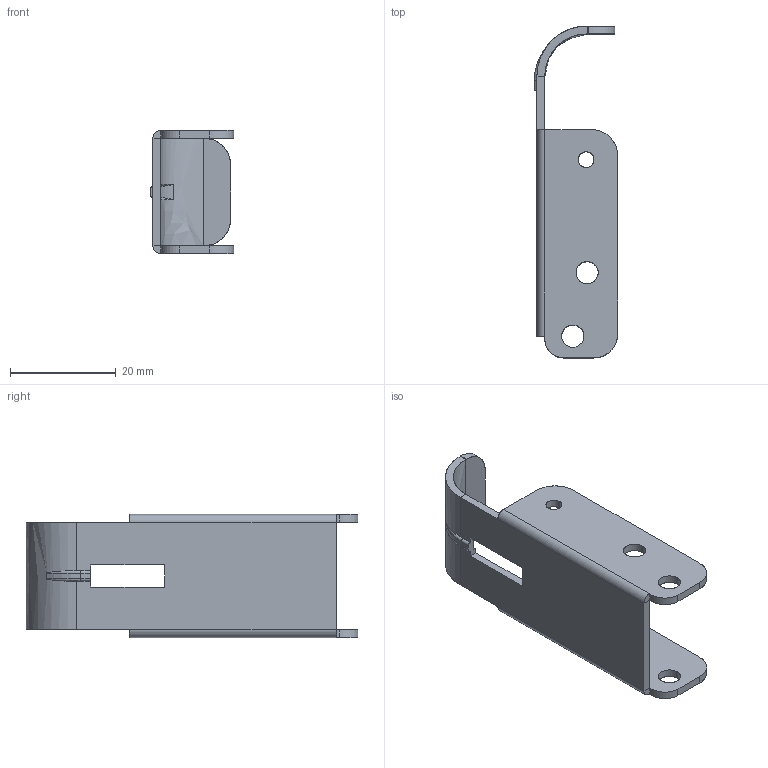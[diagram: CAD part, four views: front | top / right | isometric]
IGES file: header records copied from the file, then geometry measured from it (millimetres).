
Start section: SolidWorks IGES FILE using analytic representation for surfaces
Global section: file name: C:\WINNT\Profiles\cbrechard\Bureau\GE 44\44.010.00.IGS; native system: SolidWorks 2001Plus by SolidWorks Corporation; preprocessor: Version 5.3; author: CBRECHARD; date: 050125.133119; units: millimetre
Bounding box: 15.8 x 62.8 x 23.3 mm (x, y, z)
Surface area: 5532.5 mm2 (no closed solid volume)
Topology: 0 solids, 0 shells, 68 faces, 936 edges, 936 vertices
Faces by surface type: bspline 38, revolution 30
